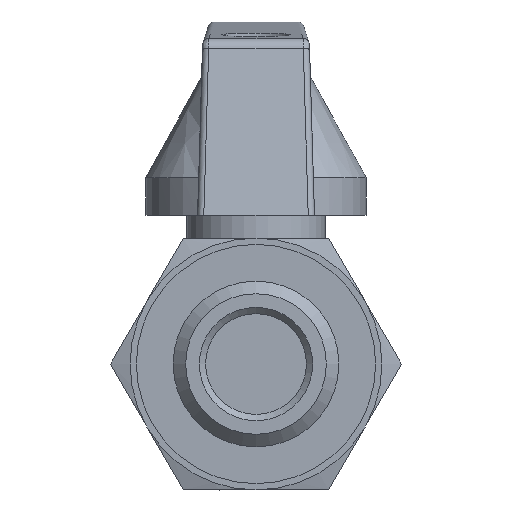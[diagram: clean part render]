
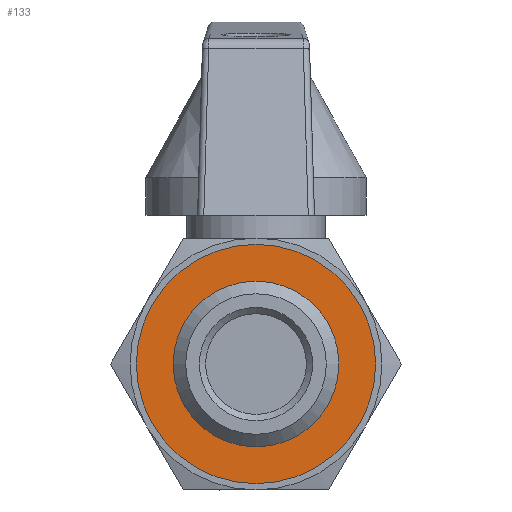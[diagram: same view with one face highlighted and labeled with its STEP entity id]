
A CAD part, front view. The second image highlights one B-rep face of the part: STEP entity #133.
In plain terms, the highlighted planar face has unit normal (0, -1, 0).
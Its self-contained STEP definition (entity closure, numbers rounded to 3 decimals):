
#133=ADVANCED_FACE('',(#991,#993),#995,.T.);
#991=FACE_BOUND('',#992,.T.);
#992=EDGE_LOOP('',(#1560));
#993=FACE_BOUND('',#994,.T.);
#994=EDGE_LOOP('',(#1561));
#995=PLANE('',#996);
#996=AXIS2_PLACEMENT_3D('',#997,#998,#999);
#997=CARTESIAN_POINT('',(0.,-2.,0.));
#998=DIRECTION('',(0.,-1.,0.));
#999=DIRECTION('',(-1.,0.,0.));
#1560=ORIENTED_EDGE('',*,*,#1784,.T.);
#1561=ORIENTED_EDGE('',*,*,#1788,.T.);
#1784=EDGE_CURVE('',#2108,#2108,#2109,.T.);
#1788=EDGE_CURVE('',#2114,#2114,#2115,.F.);
#2108=VERTEX_POINT('',#3888);
#2109=CIRCLE('',#3889,9.5);
#2114=VERTEX_POINT('',#3943);
#2115=CIRCLE('',#3944,6.579);
#3888=CARTESIAN_POINT('',(-9.5,-2.,0.));
#3889=AXIS2_PLACEMENT_3D('',#3890,#3891,#3892);
#3890=CARTESIAN_POINT('',(0.,-2.,0.));
#3891=DIRECTION('',(0.,-1.,0.));
#3892=DIRECTION('',(-1.,0.,0.));
#3943=CARTESIAN_POINT('',(-6.579,-2.,0.));
#3944=AXIS2_PLACEMENT_3D('',#3945,#3946,#3947);
#3945=CARTESIAN_POINT('',(0.,-2.,0.));
#3946=DIRECTION('',(0.,-1.,0.));
#3947=DIRECTION('',(-1.,0.,0.));
